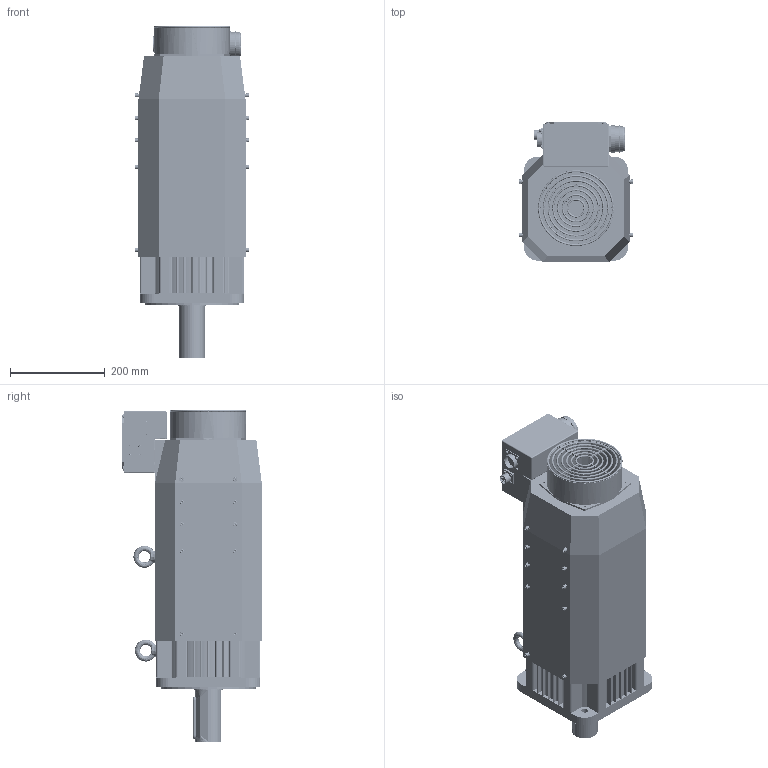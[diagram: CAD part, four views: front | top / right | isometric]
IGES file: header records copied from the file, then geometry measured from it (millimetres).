
Start section: SolidWorks IGES file using analytic representation for surfaces
Bounding box: 240.6 x 295 x 701 mm (x, y, z)
Surface area: 1836598.8 mm2 (no closed solid volume)
Topology: 0 solids, 0 shells, 2564 faces, 36998 edges, 36862 vertices
Faces by surface type: bspline 1366, revolution 1198
